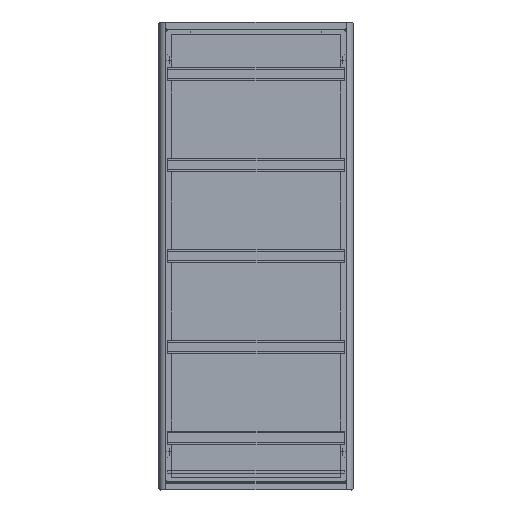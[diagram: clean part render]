
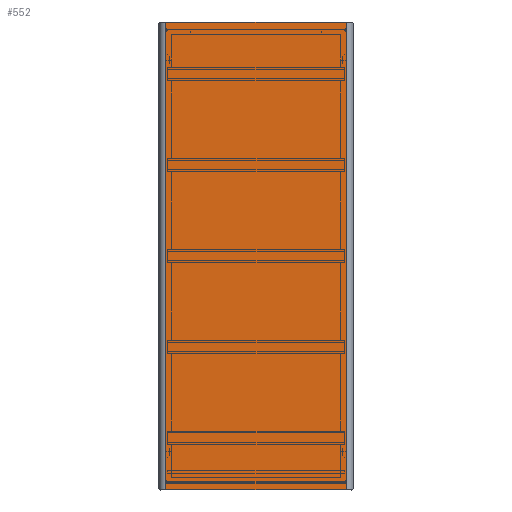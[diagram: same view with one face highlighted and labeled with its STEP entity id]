
A CAD part, top view. The second image highlights one B-rep face of the part: STEP entity #552.
In plain terms, the highlighted planar face has unit normal (0, 0, 1).
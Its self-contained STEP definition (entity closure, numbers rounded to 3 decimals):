
#552=ADVANCED_FACE('',(#1069),#10262,.T.);
#1069=FACE_OUTER_BOUND('',#1559,.T.);
#1559=EDGE_LOOP('',(#3389,#3390,#3391,#3392));
#3389=ORIENTED_EDGE('',*,*,#5436,.T.);
#3390=ORIENTED_EDGE('',*,*,#5382,.F.);
#3391=ORIENTED_EDGE('',*,*,#5437,.F.);
#3392=ORIENTED_EDGE('',*,*,#5434,.T.);
#5382=EDGE_CURVE('',#9606,#9595,#6836,.T.);
#5434=EDGE_CURVE('',#9646,#9647,#6879,.T.);
#5436=EDGE_CURVE('',#9647,#9595,#6881,.T.);
#5437=EDGE_CURVE('',#9646,#9606,#6882,.T.);
#6836=B_SPLINE_CURVE_WITH_KNOTS('',1,(#17761,#17762),.UNSPECIFIED.,.F.,
 .F.,(2,2),(0.,2400.),.UNSPECIFIED.);
#6879=B_SPLINE_CURVE_WITH_KNOTS('',1,(#17882,#17883),.UNSPECIFIED.,.F.,
 .F.,(2,2),(0.,2400.),.UNSPECIFIED.);
#6881=B_SPLINE_CURVE_WITH_KNOTS('',1,(#17886,#17887),.UNSPECIFIED.,.F.,
 .F.,(2,2),(0.,927.355),.UNSPECIFIED.);
#6882=B_SPLINE_CURVE_WITH_KNOTS('',1,(#17888,#17889),.UNSPECIFIED.,.F.,
 .F.,(2,2),(0.,927.355),.UNSPECIFIED.);
#9595=VERTEX_POINT('',#17653);
#9606=VERTEX_POINT('',#17664);
#9646=VERTEX_POINT('',#17704);
#9647=VERTEX_POINT('',#17705);
#10262=PLANE('',#11127);
#11127=AXIS2_PLACEMENT_3D('',#17648,#12566,$);
#12566=DIRECTION('',(0.,0.,1.));
#17648=CARTESIAN_POINT('',(-463.677,-1200.,0.));
#17653=CARTESIAN_POINT('',(-463.677,1200.,0.));
#17664=CARTESIAN_POINT('',(-463.677,-1200.,0.));
#17704=CARTESIAN_POINT('',(463.677,-1200.,0.));
#17705=CARTESIAN_POINT('',(463.677,1200.,0.));
#17761=CARTESIAN_POINT('',(-463.677,-1200.,0.));
#17762=CARTESIAN_POINT('',(-463.677,1200.,0.));
#17882=CARTESIAN_POINT('',(463.677,-1200.,0.));
#17883=CARTESIAN_POINT('',(463.677,1200.,0.));
#17886=CARTESIAN_POINT('',(463.677,1200.,0.));
#17887=CARTESIAN_POINT('',(-463.677,1200.,0.));
#17888=CARTESIAN_POINT('',(463.677,-1200.,0.));
#17889=CARTESIAN_POINT('',(-463.677,-1200.,0.));
